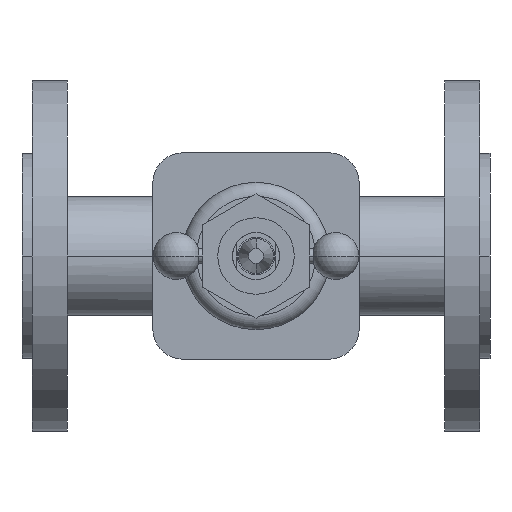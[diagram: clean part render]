
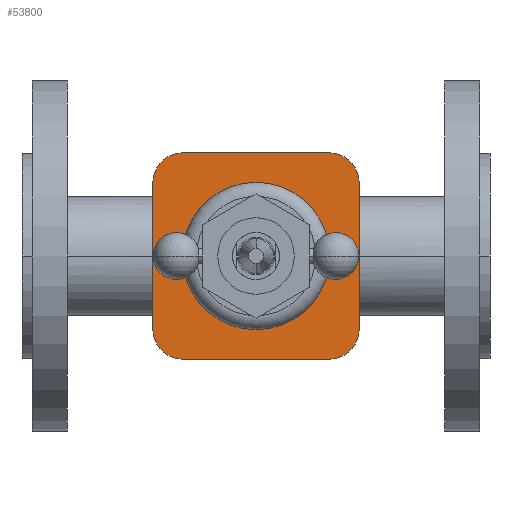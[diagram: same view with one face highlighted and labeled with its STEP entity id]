
A CAD part, front view. The second image highlights one B-rep face of the part: STEP entity #53800.
In plain terms, the highlighted planar face has unit normal (0, -1, 0).
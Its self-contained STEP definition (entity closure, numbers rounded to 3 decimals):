
#15130=CARTESIAN_POINT('',(68.5,-80.5,0.));
#15140=VERTEX_POINT('',#15130);
#15220=CARTESIAN_POINT('',(131.5,-80.5,0.));
#15230=VERTEX_POINT('',#15220);
#15260=CARTESIAN_POINT('',(100.,-80.5,0.));
#15270=DIRECTION('',(0.,-1.,0.));
#15280=DIRECTION('',(-1.,0.,0.));
#15290=AXIS2_PLACEMENT_3D('',#15260,#15270,#15280);
#15300=CIRCLE('',#15290,31.5);
#15310=EDGE_CURVE('',#15140,#15230,#15300,.T.);
#42500=CARTESIAN_POINT('',(144.113,-80.5,-31.113));
#42510=VERTEX_POINT('',#42500);
#42540=CARTESIAN_POINT('',(144.113,-80.5,15.556));
#42550=DIRECTION('',(0.,0.,1.));
#42560=VECTOR('',#42550,1.);
#42570=LINE('',#42540,#42560);
#42580=CARTESIAN_POINT('',(144.113,-80.5,31.113));
#42590=VERTEX_POINT('',#42580);
#42600=EDGE_CURVE('',#42510,#42590,#42570,.T.);
#43520=CARTESIAN_POINT('',(131.113,-80.5,-44.113));
#43530=VERTEX_POINT('',#43520);
#43560=CARTESIAN_POINT('',(131.113,-80.5,-31.113));
#43570=DIRECTION('',(0.,-1.,0.));
#43580=DIRECTION('',(1.,0.,0.));
#43590=AXIS2_PLACEMENT_3D('',#43560,#43570,#43580);
#43600=CIRCLE('',#43590,13.);
#43610=EDGE_CURVE('',#43530,#42510,#43600,.T.);
#44460=CARTESIAN_POINT('',(68.887,-80.5,-44.113));
#44470=VERTEX_POINT('',#44460);
#44500=CARTESIAN_POINT('',(93.181,-80.5,-44.113));
#44510=DIRECTION('',(1.,0.,0.));
#44520=VECTOR('',#44510,1.);
#44530=LINE('',#44500,#44520);
#44540=EDGE_CURVE('',#44470,#43530,#44530,.T.);
#45410=CARTESIAN_POINT('',(55.887,-80.5,-31.113));
#45420=VERTEX_POINT('',#45410);
#45450=CARTESIAN_POINT('',(68.887,-80.5,-31.113));
#45460=DIRECTION('',(0.,-1.,0.));
#45470=DIRECTION('',(0.,0.,-1.));
#45480=AXIS2_PLACEMENT_3D('',#45450,#45460,#45470);
#45490=CIRCLE('',#45480,13.);
#45500=EDGE_CURVE('',#45420,#44470,#45490,.T.);
#45970=CARTESIAN_POINT('',(55.887,-80.5,31.113));
#45980=VERTEX_POINT('',#45970);
#46010=CARTESIAN_POINT('',(55.887,-80.5,-15.556));
#46020=DIRECTION('',(0.,0.,-1.));
#46030=VECTOR('',#46020,1.);
#46040=LINE('',#46010,#46030);
#46050=EDGE_CURVE('',#45980,#45420,#46040,.T.);
#46280=CARTESIAN_POINT('',(68.887,-80.5,44.113));
#46290=VERTEX_POINT('',#46280);
#46320=CARTESIAN_POINT('',(68.887,-80.5,31.113));
#46330=DIRECTION('',(0.,-1.,0.));
#46340=DIRECTION('',(-1.,0.,0.));
#46350=AXIS2_PLACEMENT_3D('',#46320,#46330,#46340);
#46360=CIRCLE('',#46350,13.);
#46370=EDGE_CURVE('',#46290,#45980,#46360,.T.);
#46600=CARTESIAN_POINT('',(131.113,-80.5,44.113));
#46610=VERTEX_POINT('',#46600);
#46640=CARTESIAN_POINT('',(62.069,-80.5,44.113));
#46650=DIRECTION('',(-1.,0.,0.));
#46660=VECTOR('',#46650,1.);
#46670=LINE('',#46640,#46660);
#46680=EDGE_CURVE('',#46610,#46290,#46670,.T.);
#46880=CARTESIAN_POINT('',(131.113,-80.5,31.113));
#46890=DIRECTION('',(0.,-1.,0.));
#46900=DIRECTION('',(0.,0.,1.));
#46910=AXIS2_PLACEMENT_3D('',#46880,#46890,#46900);
#46920=CIRCLE('',#46910,13.);
#46930=EDGE_CURVE('',#42590,#46610,#46920,.T.);
#53600=CARTESIAN_POINT('',(55.25,-80.5,0.));
#53610=DIRECTION('',(0.,-1.,0.));
#53620=DIRECTION('',(-1.,0.,0.));
#53630=AXIS2_PLACEMENT_3D('',#53600,#53610,#53620);
#53640=PLANE('',#53630);
#53650=ORIENTED_EDGE('',*,*,#46370,.T.);
#53660=ORIENTED_EDGE('',*,*,#46680,.T.);
#53670=ORIENTED_EDGE('',*,*,#46930,.T.);
#53680=ORIENTED_EDGE('',*,*,#42600,.T.);
#53690=ORIENTED_EDGE('',*,*,#43610,.T.);
#53700=ORIENTED_EDGE('',*,*,#44540,.T.);
#53710=ORIENTED_EDGE('',*,*,#45500,.T.);
#53720=ORIENTED_EDGE('',*,*,#46050,.T.);
#53730=EDGE_LOOP('',(#53720,#53710,#53700,#53690,#53680,#53670,#53660,
#53650));
#53740=FACE_OUTER_BOUND('',#53730,.T.);
#53750=EDGE_CURVE('',#15230,#15140,#15300,.T.);
#53760=ORIENTED_EDGE('',*,*,#53750,.F.);
#53770=ORIENTED_EDGE('',*,*,#15310,.F.);
#53780=EDGE_LOOP('',(#53770,#53760));
#53790=FACE_BOUND('',#53780,.T.);
#53800=ADVANCED_FACE('',(#53740,#53790),#53640,.T.);
